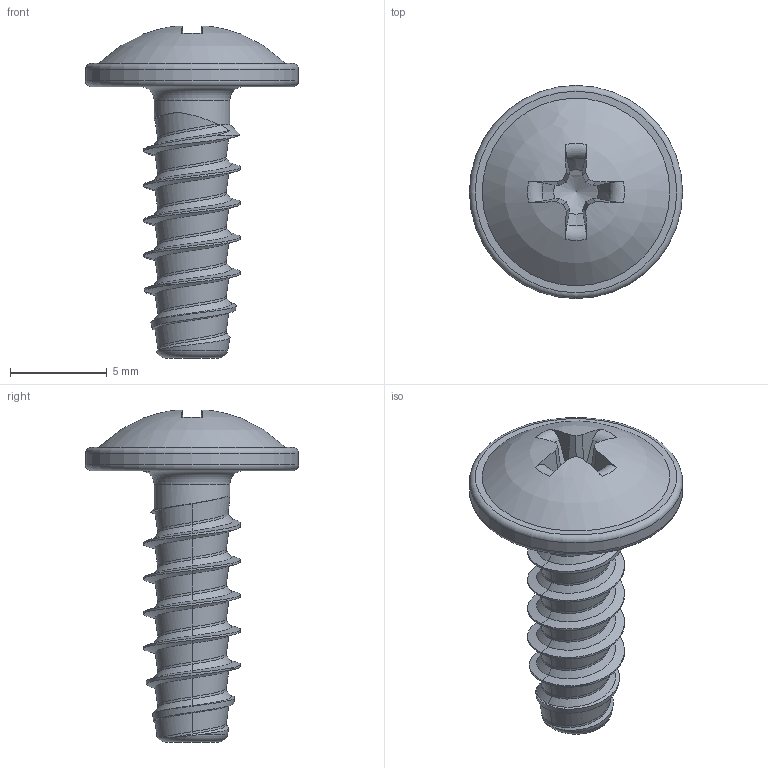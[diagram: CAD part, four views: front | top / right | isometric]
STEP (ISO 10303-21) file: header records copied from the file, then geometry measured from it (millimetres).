
FILE_DESCRIPTION(/* description */ (''),/* implementation_level */ '2;1');
FILE_NAME(/* name */ 'KN6031-STSplus-50x14-H2.step',/* time_stamp */ '2017-09-29T13:18:25+02:00',/* author */ (''),/* organization */ (''),/* preprocessor_version */ 'ST-DEVELOPER v16',/* originating_system */ 'SIEMENS PLM Software NX 10.0',/* authorisation */ '');
FILE_SCHEMA (('AUTOMOTIVE_DESIGN { 1 0 10303 214 3 1 1 1 }'));
Length unit declared in the file: millimetre
Products named in the file (1): KN6031-STSplus-50x14-H2
Bounding box: 11 x 11 x 17.14 mm (x, y, z)
Volume: 347 mm3; surface area: 482.6 mm2
Topology: 1 solids, 1 shells, 77 faces, 193 edges, 119 vertices
Faces by surface type: bspline 39, plane 19, torus 8, cone 7, cylinder 3, sphere 1
Full cylindrical faces by diameter (mm): 3.92 x1, 11 x1
Entity records: 4299 total; most frequent: CARTESIAN_POINT 2782, ORIENTED_EDGE 358, DIRECTION 205, EDGE_CURVE 179, VERTEX_POINT 114, B_SPLINE_CURVE_WITH_KNOTS 92, EDGE_LOOP 86, AXIS2_PLACEMENT_3D 79
